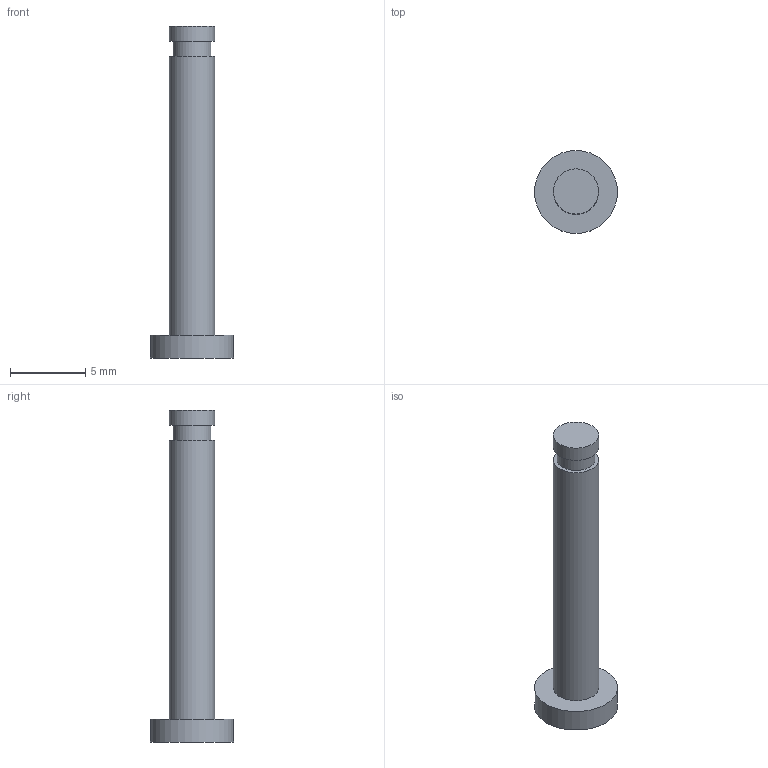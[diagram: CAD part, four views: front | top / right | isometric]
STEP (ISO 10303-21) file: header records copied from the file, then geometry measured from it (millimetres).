
FILE_DESCRIPTION(('Open CASCADE Model'),'2;1');
FILE_NAME('F09-PIN3-L22','2026-11-15T22:32:14',('Author'),( 'Open CASCADE'),'Open CASCADE STEP processor 8.0','build123d', 'Unknown');
FILE_SCHEMA(('AUTOMOTIVE_DESIGN { 1 0 10303 214 1 1 1 1 }'));
Length unit declared in the file: millimetre
Products named in the file (1): F09-PIN3-L22
Bounding box: 5.5 x 5.5 x 22 mm (x, y, z)
Volume: 178.4 mm3; surface area: 269.4 mm2
Topology: 1 solids, 1 shells, 9 faces, 12 edges, 8 vertices
Faces by surface type: plane 5, cylinder 4
Full cylindrical faces by diameter (mm): 2.5 x1, 3 x2, 5.5 x1
Entity records: 360 total; most frequent: DIRECTION 64, CARTESIAN_POINT 54, ORIENTED_EDGE 24, PCURVE 24, DEFINITIONAL_REPRESENTATION 24, LINE 20, VECTOR 20, AXIS2_PLACEMENT_3D 18
